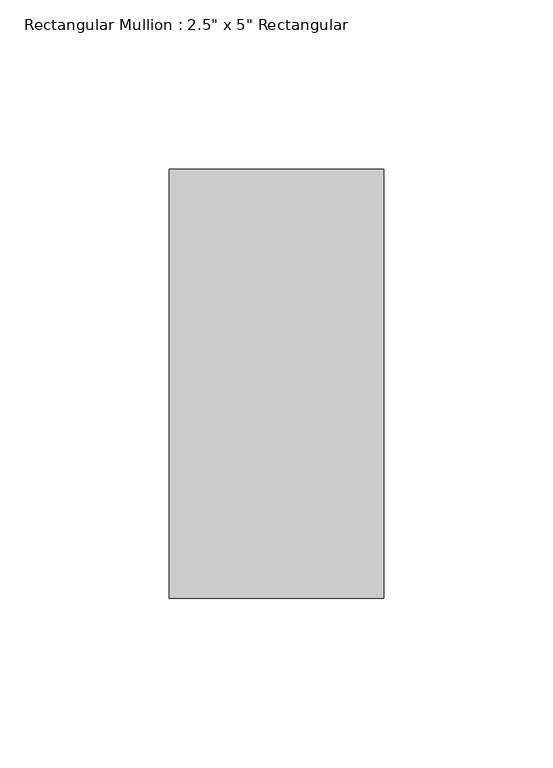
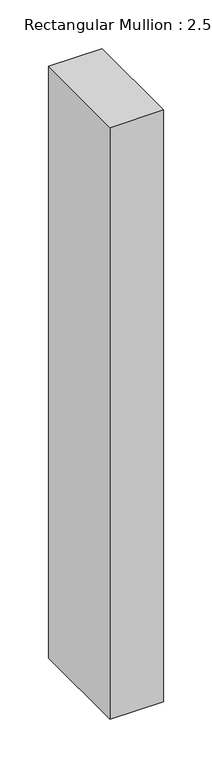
"""IFC4 building model written with IfcOpenShell, lengths in millimetres: member geometry."""

import ifcopenshell
import ifcopenshell.guid

model = None  # the IFC model being written
_history = None  # IfcOwnerHistory: only IFC2X3 demands one
_inside = {}  # id of a spatial element -> (the spatial element, [elements in it])
_under = {}  # id of a project, library or spatial element -> (it, [spatial elements below it])
_declared = {}  # id of a project -> (the project, [libraries it declares])
_typed = {}  # id of a type object -> (the type object, [elements of that type])
_made_of = {}  # id of a material, layer set ... -> (it, [elements and type objects made of it])


def new_model(schema):
    """Start an empty IFC model of exactly this schema.

    Asked for "IFC4X3", IfcOpenShell would pick the latest addendum, in which some entities
    have other attributes; the version numbers below select the first issue.
    IFC2X3 requires an IfcOwnerHistory on every rooted entity: one is made here for all.
    """
    global model, _history
    if schema == "IFC4X3":
        model = ifcopenshell.file(schema_version=(4, 3, 0, 0))
    else:
        model = ifcopenshell.file(schema=schema)
    _inside.clear()
    _under.clear()
    _declared.clear()
    _typed.clear()
    _made_of.clear()
    _history = None
    if model.schema == "IFC2X3":
        org = make("IfcOrganization", Name="unknown")
        user = make(
            "IfcPersonAndOrganization",
            ThePerson=make("IfcPerson", FamilyName="unknown"),
            TheOrganization=org,
        )
        app = make(
            "IfcApplication",
            ApplicationDeveloper=org,
            Version="unknown",
            ApplicationFullName="unknown",
            ApplicationIdentifier="unknown",
        )
        _history = make(
            "IfcOwnerHistory",
            OwningUser=user,
            OwningApplication=app,
            ChangeAction="ADDED",
            CreationDate=0,
        )
    return model


def make(cls, **values):
    """One entity of the class cls with the attributes given. An attribute that is None is left unset."""
    return model.create_entity(
        cls, **{name: value for name, value in values.items() if value is not None}
    )


def rooted(cls, **values):
    """An entity with a GlobalId (a new one), such as an element, a storey or a relation."""
    return make(cls, GlobalId=ifcopenshell.guid.new(), OwnerHistory=_history, **values)


def si_unit(unit_type, name, prefix=None):
    """IfcSIUnit, for example si_unit("LENGTHUNIT", "METRE", prefix="MILLI")."""
    return make("IfcSIUnit", UnitType=unit_type, Prefix=prefix, Name=name)


def assignment(units):
    """IfcUnitAssignment: the units of a project."""
    return None if units is None else make("IfcUnitAssignment", Units=units)


def point(xyz):
    """IfcCartesianPoint."""
    return None if xyz is None else make("IfcCartesianPoint", Coordinates=xyz)


def direction(xyz):
    """IfcDirection."""
    return None if xyz is None else make("IfcDirection", DirectionRatios=xyz)


def frame(location, z_axis=None, x_axis=None):
    """IfcAxis2Placement3D, a coordinate frame: its origin and axes. An axis left out is left unset."""
    return make(
        "IfcAxis2Placement3D",
        Location=point(location),
        Axis=direction(z_axis),
        RefDirection=direction(x_axis),
    )


def origin():
    """The frame at (0, 0, 0) with its axes left unset."""
    return frame((0.0, 0.0, 0.0))


def place(relative_to, where):
    """IfcLocalPlacement: puts the frame where relative to a parent placement (None: the world)."""
    return make(
        "IfcLocalPlacement", PlacementRelTo=relative_to, RelativePlacement=where
    )


def context(
    kind, dimensions, precision=None, world=None, true_north=None, identifier=None
):
    """IfcGeometricRepresentationContext, for example the 3D "Model" context."""
    return make(
        "IfcGeometricRepresentationContext",
        ContextIdentifier=identifier,
        ContextType=kind,
        CoordinateSpaceDimension=dimensions,
        Precision=precision,
        WorldCoordinateSystem=world,
        TrueNorth=true_north,
    )


def project(units=None, contexts=None):
    """IfcProject with its units and contexts."""
    return rooted(
        "IfcProject",
        Name="project",
        RepresentationContexts=contexts,
        UnitsInContext=assignment(units),
    )


def spatial(cls, under=None, at=None, **own):
    """A site, building, storey or space (cls), placed at a placement, below another one or the project."""
    s = rooted(cls, ObjectPlacement=at, **own)
    if under is not None:
        _under.setdefault(under.id(), (under, []))[1].append(s)
    return s


def polyline(points):
    """IfcPolyline through the points."""
    return make("IfcPolyline", Points=[point(p) for p in points])


def outline(outer, holes=None, kind="AREA"):
    """IfcArbitraryClosedProfileDef: a profile drawn as a closed curve; with holes, ...WithVoids."""
    if holes is None:
        return make("IfcArbitraryClosedProfileDef", ProfileType=kind, OuterCurve=outer)
    return make(
        "IfcArbitraryProfileDefWithVoids",
        ProfileType=kind,
        OuterCurve=outer,
        InnerCurves=holes,
    )


def extrude(swept, where, along, depth):
    """IfcExtrudedAreaSolid: the profile swept, set in the frame where, extruded along a direction by depth."""
    return make(
        "IfcExtrudedAreaSolid",
        SweptArea=swept,
        Position=where,
        ExtrudedDirection=direction(along),
        Depth=depth,
    )


def shape(context_of_items, identifier, shape_type, items):
    """IfcShapeRepresentation: the items that make up one representation, for example the "Body"."""
    return make(
        "IfcShapeRepresentation",
        ContextOfItems=context_of_items,
        RepresentationIdentifier=identifier,
        RepresentationType=shape_type,
        Items=items,
    )


def source(mapping_origin, context_of_items, identifier, shape_type, items):
    """IfcRepresentationMap: a shape defined once, which mapped items show again and again."""
    return make(
        "IfcRepresentationMap",
        MappingOrigin=mapping_origin,
        MappedRepresentation=shape(context_of_items, identifier, shape_type, items),
    )


def transform(
    local_origin,
    x_axis=None,
    y_axis=None,
    z_axis=None,
    scale=None,
    scale2=None,
    scale3=None,
    uniform=True,
):
    """IfcCartesianTransformationOperator3D, or its non-uniform kind. x_axis, y_axis, z_axis: its Axis1, 2, 3."""
    if uniform:
        return make(
            "IfcCartesianTransformationOperator3D",
            Axis1=direction(x_axis),
            Axis2=direction(y_axis),
            LocalOrigin=point(local_origin),
            Scale=scale,
            Axis3=direction(z_axis),
        )
    return make(
        "IfcCartesianTransformationOperator3DnonUniform",
        Axis1=direction(x_axis),
        Axis2=direction(y_axis),
        LocalOrigin=point(local_origin),
        Scale=scale,
        Axis3=direction(z_axis),
        Scale2=scale2,
        Scale3=scale3,
    )


def mapped(mapping_source, mapping_target):
    """IfcMappedItem: shows the shape of a source again, moved by a transform."""
    return make(
        "IfcMappedItem", MappingSource=mapping_source, MappingTarget=mapping_target
    )


def made_of(thing, what):
    """Note that an element or type object is made of a material, layer set ...; save() writes the relation."""
    if what is not None:
        _made_of.setdefault(what.id(), (what, []))[1].append(thing)
    return thing


def element(
    cls,
    number,
    at=None,
    inside=None,
    cuts=None,
    type_object=None,
    material=None,
    context=None,
    identifier="Body",
    shape_type=None,
    held_by="IfcProductDefinitionShape",
    body=None,
    shapes=None,
    **own,
):
    """One element of the class cls, such as IfcWall. Its Tag is "e" and its number.

    at: its placement. inside: the storey or other place that contains it. cuts: it is an
    opening in that element (IfcRelVoidsElement). A single representation is given by context,
    identifier, shape_type and body (its items); several are given by shapes. held_by: the class
    of the entity that holds the representations. save() writes the other relations.
    """
    e = rooted(cls, Tag="e%d" % number, ObjectPlacement=at, **own)
    if body is not None:
        shapes = [shape(context, identifier, shape_type, body)]
    if shapes is not None:
        e.Representation = make(held_by, Representations=shapes)
    if inside is not None:
        _inside.setdefault(inside.id(), (inside, []))[1].append(e)
    if cuts is not None:
        rooted(
            "IfcRelVoidsElement", RelatingBuildingElement=cuts, RelatedOpeningElement=e
        )
    if type_object is not None:
        _typed.setdefault(type_object.id(), (type_object, []))[1].append(e)
    return made_of(e, material)


def aggregate(whole, parts):
    """IfcRelAggregates: a whole, such as a stair, and the parts it consists of."""
    return rooted("IfcRelAggregates", RelatingObject=whole, RelatedObjects=parts)


def save(model, path):
    """Write the relations noted so far, then the file.

    IfcRelAggregates (storeys below a building ...), IfcRelContainedInSpatialStructure (elements
    in a storey), IfcRelDefinesByType, IfcRelAssociatesMaterial and IfcRelDeclares: one each for
    every whole, place, type object, material and project.
    """
    for whole, parts in _under.values():
        aggregate(whole, parts)
    for where, things in _inside.values():
        rooted(
            "IfcRelContainedInSpatialStructure",
            RelatedElements=things,
            RelatingStructure=where,
        )
    for kind, things in _typed.values():
        rooted("IfcRelDefinesByType", RelatedObjects=things, RelatingType=kind)
    for what, things in _made_of.values():
        rooted("IfcRelAssociatesMaterial", RelatedObjects=things, RelatingMaterial=what)
    for by, libraries in _declared.values():
        rooted("IfcRelDeclares", RelatingContext=by, RelatedDefinitions=libraries)
    model.write(path)


def member_3a0a7659(model_context):
    return source(origin(), model_context, "Body", "SweptSolid", [
        extrude(outline(polyline([(0.0, 63.5), (0.0, -63.5), (-63.5, -63.5), (-63.5, 63.5), (0.0, 63.5)])), frame((0.0, 0.0, -742.95), z_axis=(0.0, 0.0, 1.0), x_axis=(1.0, 0.0, 0.0)), (0.0, 0.0, 1.0), 742.95),
    ])


if __name__ == "__main__":
    model = new_model("IFC4")
    model_context = context("Model", 3, world=origin())
    ifc_project = project(units=[si_unit("LENGTHUNIT", "METRE", prefix="MILLI")], contexts=[model_context])
    site = spatial("IfcSite", under=ifc_project)
    building = spatial("IfcBuilding", under=site)
    placement = place(None, origin())
    member_shape = member_3a0a7659(model_context)
    element("IfcMember", 1, ObjectType="Rectangular Mullion : 2.5\" x 5\" Rectangular", at=placement, inside=building, context=model_context, shape_type="MappedRepresentation", body=[
        mapped(member_shape, transform((0.0, 0.0, 0.0), x_axis=(1.0, 0.0, 0.0), y_axis=(0.0, 1.0, 0.0), z_axis=(0.0, 0.0, 1.0))),
    ])
    save(model, "model.ifc")
